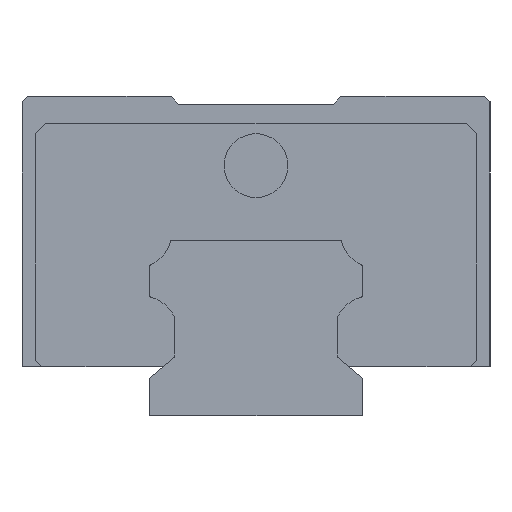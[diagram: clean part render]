
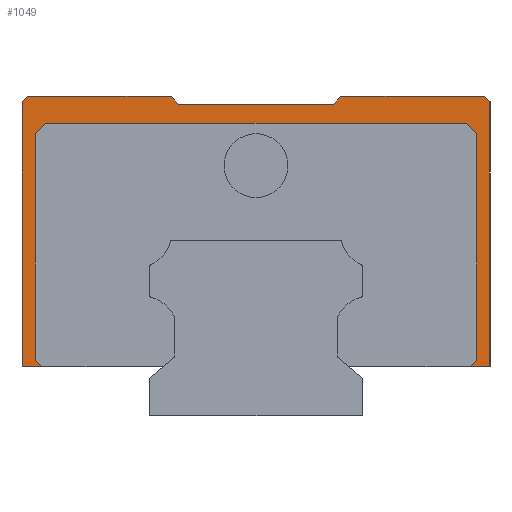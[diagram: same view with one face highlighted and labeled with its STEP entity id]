
A CAD part, left-side view. The second image highlights one B-rep face of the part: STEP entity #1049.
In plain terms, the highlighted planar face has unit normal (-1, 0, 0).
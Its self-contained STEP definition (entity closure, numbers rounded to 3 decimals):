
#1 = DIRECTION ( 'NONE',  ( 0., -0.707, -0.707 ) ) ;
#7 = VECTOR ( 'NONE', #1625, 1000. ) ;
#21 = ORIENTED_EDGE ( 'NONE', *, *, #5486, .F. ) ;
#68 = ORIENTED_EDGE ( 'NONE', *, *, #1318, .F. ) ;
#140 = EDGE_CURVE ( 'NONE', #4773, #3898, #2425, .T. ) ;
#159 = CARTESIAN_POINT ( 'NONE',  ( -39., 22., 29.5 ) ) ;
#179 = VECTOR ( 'NONE', #371, 1000. ) ;
#186 = VECTOR ( 'NONE', #5564, 1000. ) ;
#239 = CARTESIAN_POINT ( 'NONE',  ( -39., -22., 30. ) ) ;
#240 = VERTEX_POINT ( 'NONE', #3711 ) ;
#266 = CARTESIAN_POINT ( 'NONE',  ( -39., 7.963, 30. ) ) ;
#270 = VERTEX_POINT ( 'NONE', #1282 ) ;
#328 = EDGE_CURVE ( 'NONE', #3898, #613, #354, .T. ) ;
#337 = LINE ( 'NONE', #2227, #5106 ) ;
#354 = LINE ( 'NONE', #1335, #1556 ) ;
#371 = DIRECTION ( 'NONE',  ( 0., 1., 0. ) ) ;
#393 = CARTESIAN_POINT ( 'NONE',  ( -39., 7.333, 29.25 ) ) ;
#462 = CARTESIAN_POINT ( 'NONE',  ( -39., 11.775, -3.775 ) ) ;
#540 = EDGE_LOOP ( 'NONE', ( #68, #4680, #2558, #5852, #5982, #6104, #2881, #2038, #1039, #5773, #6083, #1734, #1832, #3019, #21, #4927, #2729, #4582 ) ) ;
#598 = EDGE_CURVE ( 'NONE', #5151, #820, #337, .T. ) ;
#613 = VERTEX_POINT ( 'NONE', #4467 ) ;
#671 = VERTEX_POINT ( 'NONE', #5670 ) ;
#730 = DIRECTION ( 'NONE',  ( 0., 0.643, -0.766 ) ) ;
#820 = VERTEX_POINT ( 'NONE', #3935 ) ;
#878 = DIRECTION ( 'NONE',  ( 0., 0.707, 0.707 ) ) ;
#899 = DIRECTION ( 'NONE',  ( 0., 1., 0. ) ) ;
#925 = VERTEX_POINT ( 'NONE', #1129 ) ;
#936 = EDGE_CURVE ( 'NONE', #1562, #240, #5283, .T. ) ;
#941 = CARTESIAN_POINT ( 'NONE',  ( -39., 21.5, 30. ) ) ;
#993 = LINE ( 'NONE', #4215, #3387 ) ;
#1038 = CARTESIAN_POINT ( 'NONE',  ( -39., -7.963, 30. ) ) ;
#1039 = ORIENTED_EDGE ( 'NONE', *, *, #2225, .F. ) ;
#1049 = ADVANCED_FACE ( 'NONE', ( #5470 ), #3163, .F. ) ;
#1061 = LINE ( 'NONE', #4260, #1276 ) ;
#1129 = CARTESIAN_POINT ( 'NONE',  ( -39., 20.75, 5.2 ) ) ;
#1241 = EDGE_CURVE ( 'NONE', #270, #5682, #1327, .T. ) ;
#1264 = VERTEX_POINT ( 'NONE', #1268 ) ;
#1268 = CARTESIAN_POINT ( 'NONE',  ( -39., 7.333, 29.25 ) ) ;
#1276 = VECTOR ( 'NONE', #1963, 1000. ) ;
#1282 = CARTESIAN_POINT ( 'NONE',  ( -39., 20.15, 4.6 ) ) ;
#1318 = EDGE_CURVE ( 'NONE', #925, #270, #2850, .T. ) ;
#1327 = LINE ( 'NONE', #2700, #179 ) ;
#1335 = CARTESIAN_POINT ( 'NONE',  ( -39., -19.625, 27.625 ) ) ;
#1402 = LINE ( 'NONE', #5272, #5244 ) ;
#1556 = VECTOR ( 'NONE', #878, 1000. ) ;
#1562 = VERTEX_POINT ( 'NONE', #4971 ) ;
#1578 = VECTOR ( 'NONE', #1835, 1000. ) ;
#1625 = DIRECTION ( 'NONE',  ( 0., -0.707, 0.707 ) ) ;
#1638 = DIRECTION ( 'NONE',  ( 0., 0., -1. ) ) ;
#1671 = CARTESIAN_POINT ( 'NONE',  ( -39., -22., 28. ) ) ;
#1734 = ORIENTED_EDGE ( 'NONE', *, *, #936, .T. ) ;
#1781 = CARTESIAN_POINT ( 'NONE',  ( -39., 20.75, 30. ) ) ;
#1832 = ORIENTED_EDGE ( 'NONE', *, *, #2429, .T. ) ;
#1835 = DIRECTION ( 'NONE',  ( 0., 0., 1. ) ) ;
#1885 = EDGE_CURVE ( 'NONE', #613, #3680, #4328, .T. ) ;
#1895 = DIRECTION ( 'NONE',  ( 0., 0., 1. ) ) ;
#1963 = DIRECTION ( 'NONE',  ( 0., 0.707, -0.707 ) ) ;
#2038 = ORIENTED_EDGE ( 'NONE', *, *, #598, .F. ) ;
#2134 = DIRECTION ( 'NONE',  ( 1., 0., 0. ) ) ;
#2163 = VECTOR ( 'NONE', #1638, 1000. ) ;
#2220 = DIRECTION ( 'NONE',  ( 0., 1., 0. ) ) ;
#2225 = EDGE_CURVE ( 'NONE', #4227, #5151, #2527, .T. ) ;
#2227 = CARTESIAN_POINT ( 'NONE',  ( -39., -22., 4.6 ) ) ;
#2258 = VECTOR ( 'NONE', #899, 1000. ) ;
#2295 = VECTOR ( 'NONE', #1895, 1000. ) ;
#2335 = LINE ( 'NONE', #6088, #1578 ) ;
#2425 = LINE ( 'NONE', #3364, #2295 ) ;
#2429 = EDGE_CURVE ( 'NONE', #240, #1264, #5583, .T. ) ;
#2527 = LINE ( 'NONE', #1671, #2163 ) ;
#2558 = ORIENTED_EDGE ( 'NONE', *, *, #4373, .F. ) ;
#2700 = CARTESIAN_POINT ( 'NONE',  ( -39., 9., 4.6 ) ) ;
#2729 = ORIENTED_EDGE ( 'NONE', *, *, #3388, .F. ) ;
#2850 = LINE ( 'NONE', #462, #5721 ) ;
#2881 = ORIENTED_EDGE ( 'NONE', *, *, #5183, .F. ) ;
#2913 = CARTESIAN_POINT ( 'NONE',  ( -39., -22., 4.6 ) ) ;
#2931 = CARTESIAN_POINT ( 'NONE',  ( -39., -20.75, 5.2 ) ) ;
#2960 = VECTOR ( 'NONE', #730, 1000. ) ;
#2969 = AXIS2_PLACEMENT_3D ( 'NONE', #239, #2134, #2220 ) ;
#3019 = ORIENTED_EDGE ( 'NONE', *, *, #3235, .T. ) ;
#3163 = PLANE ( 'NONE',  #2969 ) ;
#3235 = EDGE_CURVE ( 'NONE', #1264, #3240, #5469, .T. ) ;
#3240 = VERTEX_POINT ( 'NONE', #266 ) ;
#3279 = VECTOR ( 'NONE', #4501, 1000. ) ;
#3364 = CARTESIAN_POINT ( 'NONE',  ( -39., -20.75, 30. ) ) ;
#3369 = DIRECTION ( 'NONE',  ( 0., 0.707, 0.707 ) ) ;
#3380 = DIRECTION ( 'NONE',  ( 0., -1., 0. ) ) ;
#3387 = VECTOR ( 'NONE', #3369, 1000. ) ;
#3388 = EDGE_CURVE ( 'NONE', #5682, #6017, #2335, .T. ) ;
#3557 = CARTESIAN_POINT ( 'NONE',  ( -39., -22., 27.5 ) ) ;
#3574 = EDGE_CURVE ( 'NONE', #5523, #925, #6026, .T. ) ;
#3680 = VERTEX_POINT ( 'NONE', #5699 ) ;
#3711 = CARTESIAN_POINT ( 'NONE',  ( -39., -7.333, 29.25 ) ) ;
#3767 = VECTOR ( 'NONE', #4935, 1000. ) ;
#3805 = CARTESIAN_POINT ( 'NONE',  ( -39., 20.75, 26.5 ) ) ;
#3898 = VERTEX_POINT ( 'NONE', #4031 ) ;
#3901 = CARTESIAN_POINT ( 'NONE',  ( -39., 21.5, 30. ) ) ;
#3935 = CARTESIAN_POINT ( 'NONE',  ( -39., -20.15, 4.6 ) ) ;
#3989 = DIRECTION ( 'NONE',  ( 0., 1., 0. ) ) ;
#4031 = CARTESIAN_POINT ( 'NONE',  ( -39., -20.75, 26.5 ) ) ;
#4215 = CARTESIAN_POINT ( 'NONE',  ( -39., -22., 29.5 ) ) ;
#4227 = VERTEX_POINT ( 'NONE', #5468 ) ;
#4260 = CARTESIAN_POINT ( 'NONE',  ( -39., -2.375, 49.625 ) ) ;
#4328 = LINE ( 'NONE', #3557, #5527 ) ;
#4373 = EDGE_CURVE ( 'NONE', #3680, #5523, #1061, .T. ) ;
#4467 = CARTESIAN_POINT ( 'NONE',  ( -39., -19.75, 27.5 ) ) ;
#4476 = VERTEX_POINT ( 'NONE', #3901 ) ;
#4501 = DIRECTION ( 'NONE',  ( 0., 0.643, 0.766 ) ) ;
#4582 = ORIENTED_EDGE ( 'NONE', *, *, #1241, .F. ) ;
#4586 = CARTESIAN_POINT ( 'NONE',  ( -39., 22., 4.6 ) ) ;
#4601 = EDGE_CURVE ( 'NONE', #1562, #671, #5931, .T. ) ;
#4642 = CARTESIAN_POINT ( 'NONE',  ( -39., -7.333, 29.25 ) ) ;
#4680 = ORIENTED_EDGE ( 'NONE', *, *, #3574, .F. ) ;
#4773 = VERTEX_POINT ( 'NONE', #2931 ) ;
#4787 = DIRECTION ( 'NONE',  ( 0., 0.707, -0.707 ) ) ;
#4852 = EDGE_CURVE ( 'NONE', #4227, #671, #993, .T. ) ;
#4879 = CARTESIAN_POINT ( 'NONE',  ( -39., -33.775, 18.225 ) ) ;
#4927 = ORIENTED_EDGE ( 'NONE', *, *, #5168, .T. ) ;
#4935 = DIRECTION ( 'NONE',  ( 0., -1., 0. ) ) ;
#4971 = CARTESIAN_POINT ( 'NONE',  ( -39., -7.963, 30. ) ) ;
#5106 = VECTOR ( 'NONE', #5579, 1000. ) ;
#5151 = VERTEX_POINT ( 'NONE', #2913 ) ;
#5168 = EDGE_CURVE ( 'NONE', #4476, #6017, #5180, .T. ) ;
#5180 = LINE ( 'NONE', #941, #5853 ) ;
#5183 = EDGE_CURVE ( 'NONE', #820, #4773, #5882, .T. ) ;
#5244 = VECTOR ( 'NONE', #3380, 1000. ) ;
#5272 = CARTESIAN_POINT ( 'NONE',  ( -39., 22., 30. ) ) ;
#5283 = LINE ( 'NONE', #1038, #2960 ) ;
#5468 = CARTESIAN_POINT ( 'NONE',  ( -39., -22., 29.5 ) ) ;
#5469 = LINE ( 'NONE', #393, #3279 ) ;
#5470 = FACE_OUTER_BOUND ( 'NONE', #540, .T. ) ;
#5486 = EDGE_CURVE ( 'NONE', #4476, #3240, #1402, .T. ) ;
#5523 = VERTEX_POINT ( 'NONE', #3805 ) ;
#5527 = VECTOR ( 'NONE', #3989, 1000. ) ;
#5564 = DIRECTION ( 'NONE',  ( 0., 0., -1. ) ) ;
#5579 = DIRECTION ( 'NONE',  ( 0., 1., 0. ) ) ;
#5583 = LINE ( 'NONE', #4642, #2258 ) ;
#5670 = CARTESIAN_POINT ( 'NONE',  ( -39., -21.5, 30. ) ) ;
#5682 = VERTEX_POINT ( 'NONE', #4586 ) ;
#5699 = CARTESIAN_POINT ( 'NONE',  ( -39., 19.75, 27.5 ) ) ;
#5721 = VECTOR ( 'NONE', #1, 1000. ) ;
#5773 = ORIENTED_EDGE ( 'NONE', *, *, #4852, .T. ) ;
#5852 = ORIENTED_EDGE ( 'NONE', *, *, #1885, .F. ) ;
#5853 = VECTOR ( 'NONE', #4787, 1000. ) ;
#5877 = CARTESIAN_POINT ( 'NONE',  ( -39., 22., 30. ) ) ;
#5882 = LINE ( 'NONE', #4879, #7 ) ;
#5931 = LINE ( 'NONE', #5877, #3767 ) ;
#5982 = ORIENTED_EDGE ( 'NONE', *, *, #328, .F. ) ;
#6017 = VERTEX_POINT ( 'NONE', #159 ) ;
#6026 = LINE ( 'NONE', #1781, #186 ) ;
#6083 = ORIENTED_EDGE ( 'NONE', *, *, #4601, .F. ) ;
#6088 = CARTESIAN_POINT ( 'NONE',  ( -39., 22., 4.6 ) ) ;
#6104 = ORIENTED_EDGE ( 'NONE', *, *, #140, .F. ) ;
